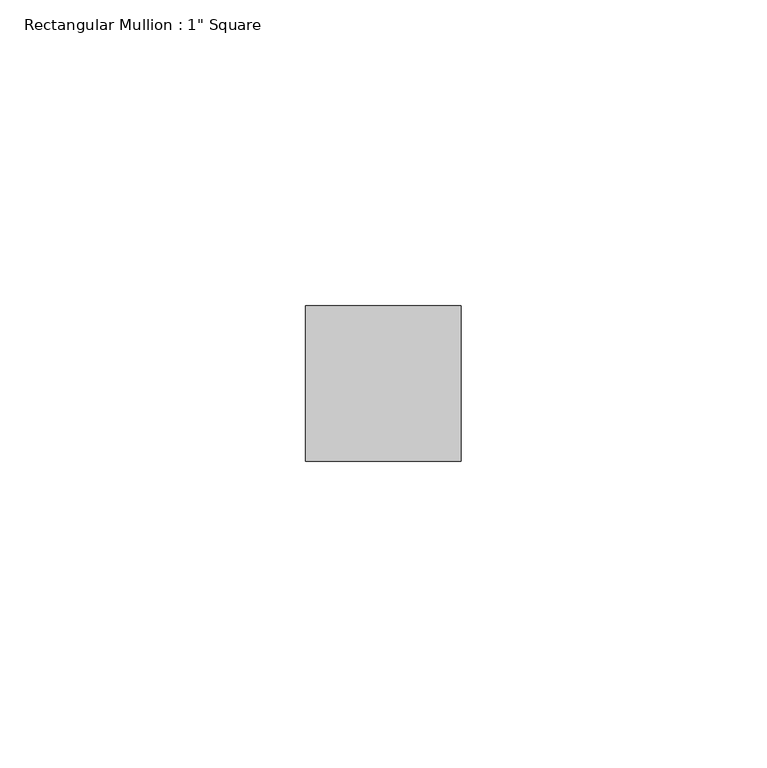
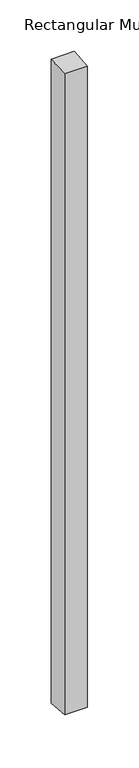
"""IFC4 building model written with IfcOpenShell, lengths in millimetres: member geometry."""

from ifc_helpers import new_model, si_unit, origin, place, context, project, spatial, faceted_brep, source, transform, mapped, element, save


def member_27e61d6b(model_context):
    return source(origin(), model_context, "Body", "Brep", [
        faceted_brep([(-25.4, 12.7, 0.8976974), (0.0, 12.7, 1.058962), (0.0, 12.7, -763.058962), (-25.4, 12.7, -762.8976974), (-25.4, -12.7, -1.2202266), (-25.4, -12.7, -760.7797734), (0.0, -12.7, -1.058962), (0.0, -12.7, -760.941038)], [[[0, 1, 2, 3]], [[4, 0, 3, 5]], [[6, 4, 5, 7]], [[1, 6, 7, 2]], [[1, 0, 4, 6]], [[2, 7, 5, 3]]]),
    ])


if __name__ == "__main__":
    model = new_model("IFC4")
    model_context = context("Model", 3, world=origin())
    ifc_project = project(units=[si_unit("LENGTHUNIT", "METRE", prefix="MILLI")], contexts=[model_context])
    site = spatial("IfcSite", under=ifc_project)
    building = spatial("IfcBuilding", under=site)
    placement = place(None, origin())
    member_shape = member_27e61d6b(model_context)
    element("IfcMember", 1, ObjectType="Rectangular Mullion : 1\" Square", at=placement, inside=building, context=model_context, shape_type="MappedRepresentation", body=[
        mapped(member_shape, transform((0.0, 0.0, 0.0), x_axis=(1.0, 0.0, 0.0), y_axis=(0.0, 1.0, 0.0), z_axis=(0.0, 0.0, 1.0))),
    ])
    save(model, "model.ifc")
